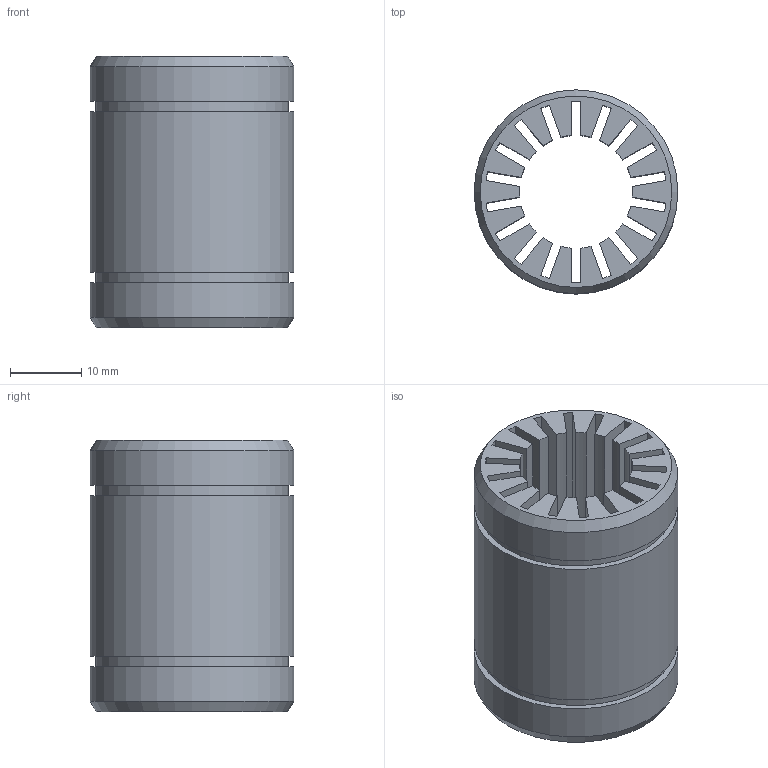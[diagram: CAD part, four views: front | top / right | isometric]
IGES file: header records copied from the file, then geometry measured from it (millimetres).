
Global section: file name: No Iges File Name specified; native system: AutoDesk Inventor R6.0; preprocessor: AutoDesk Inventor Iges Exporter R6.0; author: No Author specified; organization: No Organization specified; date: 20080121.072655; units: inch
Bounding box: 28.57 x 28.57 x 38.1 mm (x, y, z)
Surface area: 12709.3 mm2 (no closed solid volume)
Topology: 0 solids, 0 shells, 85 faces, 463 edges, 456 vertices
Faces by surface type: plane 58, revolution 24, bspline 3
